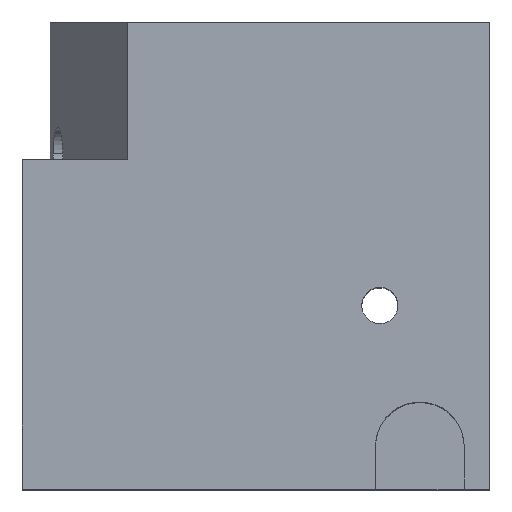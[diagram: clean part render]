
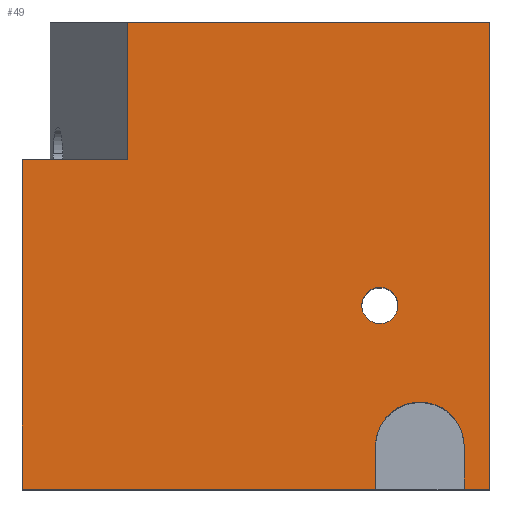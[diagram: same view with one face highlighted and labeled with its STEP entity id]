
A CAD part, top view. The second image highlights one B-rep face of the part: STEP entity #49.
In plain terms, the highlighted planar face has unit normal (0, 0, 1).
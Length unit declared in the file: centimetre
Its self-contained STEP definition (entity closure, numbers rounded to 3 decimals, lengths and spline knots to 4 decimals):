
#5 = CARTESIAN_POINT ( 'NONE',  ( 224.9707, 706.2535, 1000. ) ) ;
#9 = CIRCLE ( 'NONE', #913, 38.7454 ) ;
#10 = VERTEX_POINT ( 'NONE', #1025 ) ;
#26 = DIRECTION ( 'NONE',  ( 0., -1., 0. ) ) ;
#27 = LINE ( 'NONE', #1494, #1526 ) ;
#35 = CARTESIAN_POINT ( 'NONE',  ( 755.6624, 0., 1000. ) ) ;
#40 = VERTEX_POINT ( 'NONE', #522 ) ;
#46 = DIRECTION ( 'NONE',  ( 0., 0., 1. ) ) ;
#49 = ADVANCED_FACE ( 'NONE', ( #1511, #641 ), #1363, .T. ) ;
#51 = DIRECTION ( 'NONE',  ( 0., -1., 0. ) ) ;
#62 = VECTOR ( 'NONE', #647, 100. ) ;
#73 = EDGE_CURVE ( 'NONE', #651, #925, #9, .T. ) ;
#80 = CARTESIAN_POINT ( 'NONE',  ( 803.9012, 393.2596, 1000. ) ) ;
#95 = EDGE_LOOP ( 'NONE', ( #182, #606 ) ) ;
#115 = CARTESIAN_POINT ( 'NONE',  ( 224.9707, 706.2535, 1000. ) ) ;
#121 = LINE ( 'NONE', #394, #646 ) ;
#156 = CARTESIAN_POINT ( 'NONE',  ( 0., 0., 1000. ) ) ;
#157 = EDGE_CURVE ( 'NONE', #561, #739, #27, .T. ) ;
#164 = EDGE_CURVE ( 'NONE', #778, #561, #1244, .T. ) ;
#182 = ORIENTED_EDGE ( 'NONE', *, *, #73, .F. ) ;
#191 = ORIENTED_EDGE ( 'NONE', *, *, #962, .T. ) ;
#226 = CARTESIAN_POINT ( 'NONE',  ( 765.1559, 393.2596, 1000. ) ) ;
#231 = VECTOR ( 'NONE', #51, 100. ) ;
#271 = CIRCLE ( 'NONE', #1278, 38.7454 ) ;
#298 = DIRECTION ( 'NONE',  ( 1., 0., 0. ) ) ;
#323 = LINE ( 'NONE', #156, #62 ) ;
#354 = CARTESIAN_POINT ( 'NONE',  ( 945.7461, 91.4694, 1000. ) ) ;
#366 = LINE ( 'NONE', #1341, #775 ) ;
#378 = EDGE_CURVE ( 'NONE', #40, #920, #121, .T. ) ;
#388 = CARTESIAN_POINT ( 'NONE',  ( 0., 0., 1000. ) ) ;
#394 = CARTESIAN_POINT ( 'NONE',  ( 0., 1000., 1000. ) ) ;
#400 = VERTEX_POINT ( 'NONE', #35 ) ;
#426 = DIRECTION ( 'NONE',  ( 1., 0., 0. ) ) ;
#427 = VECTOR ( 'NONE', #785, 100. ) ;
#433 = CARTESIAN_POINT ( 'NONE',  ( 1000., 0., 1000. ) ) ;
#445 = CIRCLE ( 'NONE', #643, 95.0418 ) ;
#452 = ORIENTED_EDGE ( 'NONE', *, *, #157, .T. ) ;
#460 = DIRECTION ( 'NONE',  ( 0., 1., 0. ) ) ;
#483 = CARTESIAN_POINT ( 'NONE',  ( 1000., 1000., 1000. ) ) ;
#512 = ORIENTED_EDGE ( 'NONE', *, *, #1131, .F. ) ;
#522 = CARTESIAN_POINT ( 'NONE',  ( 0., 706.2535, 1000. ) ) ;
#539 = CARTESIAN_POINT ( 'NONE',  ( 726.4105, 393.2596, 1000. ) ) ;
#561 = VERTEX_POINT ( 'NONE', #433 ) ;
#562 = LINE ( 'NONE', #569, #1165 ) ;
#569 = CARTESIAN_POINT ( 'NONE',  ( 945.7461, 91.4694, 1000. ) ) ;
#606 = ORIENTED_EDGE ( 'NONE', *, *, #1226, .F. ) ;
#621 = DIRECTION ( 'NONE',  ( 1., 0., 0. ) ) ;
#630 = LINE ( 'NONE', #1124, #886 ) ;
#635 = ORIENTED_EDGE ( 'NONE', *, *, #980, .F. ) ;
#641 = FACE_BOUND ( 'NONE', #95, .T. ) ;
#643 = AXIS2_PLACEMENT_3D ( 'NONE', #799, #791, #1534 ) ;
#646 = VECTOR ( 'NONE', #26, 100. ) ;
#647 = DIRECTION ( 'NONE',  ( 1., 0., 0. ) ) ;
#651 = VERTEX_POINT ( 'NONE', #80 ) ;
#652 = DIRECTION ( 'NONE',  ( 0., 0., 1. ) ) ;
#680 = VERTEX_POINT ( 'NONE', #915 ) ;
#713 = ORIENTED_EDGE ( 'NONE', *, *, #722, .F. ) ;
#714 = DIRECTION ( 'NONE',  ( 0., 0., 1. ) ) ;
#722 = EDGE_CURVE ( 'NONE', #1048, #680, #1100, .T. ) ;
#739 = VERTEX_POINT ( 'NONE', #483 ) ;
#749 = DIRECTION ( 'NONE',  ( 1., 0., 0. ) ) ;
#751 = EDGE_CURVE ( 'NONE', #739, #680, #366, .T. ) ;
#775 = VECTOR ( 'NONE', #1113, 100. ) ;
#778 = VERTEX_POINT ( 'NONE', #1230 ) ;
#781 = LINE ( 'NONE', #1270, #231 ) ;
#785 = DIRECTION ( 'NONE',  ( 1., 0., 0. ) ) ;
#791 = DIRECTION ( 'NONE',  ( 0., 0., 1. ) ) ;
#799 = CARTESIAN_POINT ( 'NONE',  ( 850.7043, 91.4694, 1000. ) ) ;
#823 = ORIENTED_EDGE ( 'NONE', *, *, #164, .T. ) ;
#863 = ORIENTED_EDGE ( 'NONE', *, *, #1575, .F. ) ;
#884 = CARTESIAN_POINT ( 'NONE',  ( 0., 0., 1000. ) ) ;
#886 = VECTOR ( 'NONE', #621, 100. ) ;
#913 = AXIS2_PLACEMENT_3D ( 'NONE', #1135, #46, #426 ) ;
#915 = CARTESIAN_POINT ( 'NONE',  ( 224.9707, 1000., 1000. ) ) ;
#920 = VERTEX_POINT ( 'NONE', #921 ) ;
#921 = CARTESIAN_POINT ( 'NONE',  ( 0., 0., 1000. ) ) ;
#925 = VERTEX_POINT ( 'NONE', #539 ) ;
#934 = ORIENTED_EDGE ( 'NONE', *, *, #378, .T. ) ;
#941 = EDGE_CURVE ( 'NONE', #1204, #10, #445, .T. ) ;
#955 = AXIS2_PLACEMENT_3D ( 'NONE', #388, #652, #298 ) ;
#962 = EDGE_CURVE ( 'NONE', #920, #400, #323, .T. ) ;
#980 = EDGE_CURVE ( 'NONE', #10, #400, #781, .T. ) ;
#1025 = CARTESIAN_POINT ( 'NONE',  ( 755.6624, 91.4694, 1000. ) ) ;
#1048 = VERTEX_POINT ( 'NONE', #115 ) ;
#1100 = LINE ( 'NONE', #5, #1438 ) ;
#1113 = DIRECTION ( 'NONE',  ( -1., 0., 0. ) ) ;
#1124 = CARTESIAN_POINT ( 'NONE',  ( 0., 706.2535, 1000. ) ) ;
#1127 = DIRECTION ( 'NONE',  ( 0., 1., 0. ) ) ;
#1131 = EDGE_CURVE ( 'NONE', #778, #1204, #562, .T. ) ;
#1135 = CARTESIAN_POINT ( 'NONE',  ( 765.1559, 393.2596, 1000. ) ) ;
#1165 = VECTOR ( 'NONE', #460, 100. ) ;
#1204 = VERTEX_POINT ( 'NONE', #354 ) ;
#1226 = EDGE_CURVE ( 'NONE', #925, #651, #271, .T. ) ;
#1230 = CARTESIAN_POINT ( 'NONE',  ( 945.7461, 0., 1000. ) ) ;
#1244 = LINE ( 'NONE', #884, #427 ) ;
#1270 = CARTESIAN_POINT ( 'NONE',  ( 755.6624, 0., 1000. ) ) ;
#1278 = AXIS2_PLACEMENT_3D ( 'NONE', #226, #714, #749 ) ;
#1341 = CARTESIAN_POINT ( 'NONE',  ( 0., 1000., 1000. ) ) ;
#1363 = PLANE ( 'NONE',  #955 ) ;
#1368 = DIRECTION ( 'NONE',  ( 0., 1., 0. ) ) ;
#1411 = ORIENTED_EDGE ( 'NONE', *, *, #941, .F. ) ;
#1438 = VECTOR ( 'NONE', #1368, 100. ) ;
#1494 = CARTESIAN_POINT ( 'NONE',  ( 1000., 1000., 1000. ) ) ;
#1511 = FACE_OUTER_BOUND ( 'NONE', #1554, .T. ) ;
#1526 = VECTOR ( 'NONE', #1127, 100. ) ;
#1534 = DIRECTION ( 'NONE',  ( -1., 0., 0. ) ) ;
#1554 = EDGE_LOOP ( 'NONE', ( #635, #1411, #512, #823, #452, #1574, #713, #863, #934, #191 ) ) ;
#1574 = ORIENTED_EDGE ( 'NONE', *, *, #751, .T. ) ;
#1575 = EDGE_CURVE ( 'NONE', #40, #1048, #630, .T. ) ;
